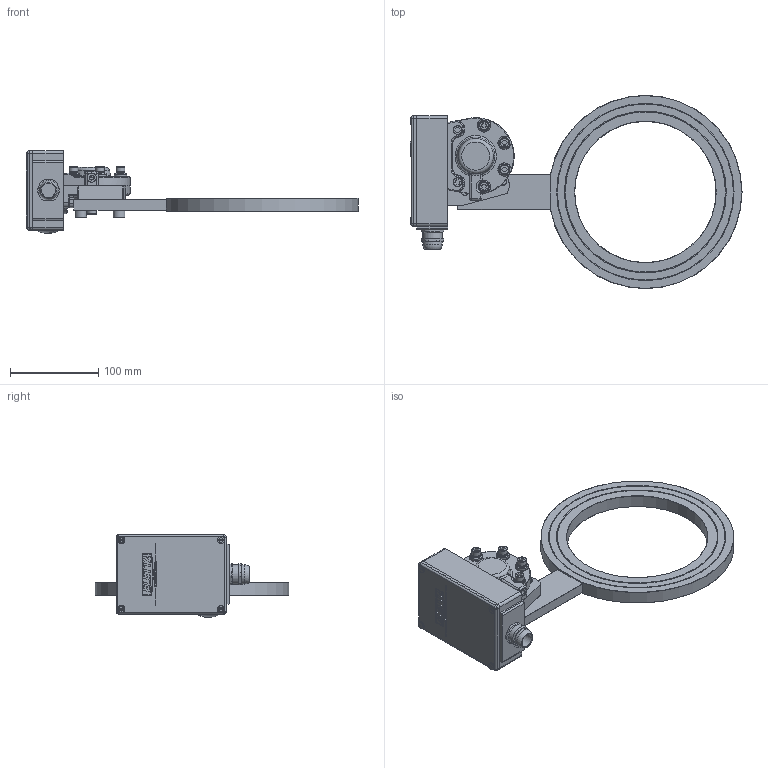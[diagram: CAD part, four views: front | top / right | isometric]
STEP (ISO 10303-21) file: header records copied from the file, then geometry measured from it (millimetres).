
FILE_DESCRIPTION(/* description */ ('Alibre Inc.'),/* implementation_level */ '2;1');
FILE_NAME(/* name */ 'export0',/* time_stamp */ '2012-10-19T13:19:12+02:00',/* author */ (''),/* organization */ (''),/* preprocessor_version */ 'ST-DEVELOPER v14',/* originating_system */ 'Alibre',/* authorisation */ '');
FILE_SCHEMA (('CONFIG_CONTROL_DESIGN'));
Length unit declared in the file: centimetre
Products named in the file (12): ID_1; ID_2; ID_3; ID_4; ID_5; ID_6; ID_7; ID_8; ID_9
Bounding box: 376.24 x 219 x 93.66 mm (x, y, z)
Volume: 578275 mm3; surface area: 208869.9 mm2
Topology: 21 solids, 21 shells, 1085 faces, 2568 edges, 1593 vertices
Faces by surface type: plane 538, cylinder 231, bspline 162, cone 76, torus 70, sphere 8
Full cylindrical faces by diameter (mm): 3.9 x2, 5 x22, 5.5 x1, 5.541 x2, 6 x14, 6.038 x2, 6.5 x6, 8 x9, 8.5 x2, 9.6 x6, 10 x11, 10.5 x1, 12 x3, 13 x2, 14 x3, 16 x1, 17.966 x1, 19.5 x1, 22 x2, 22.5 x4, 29 x1, 31 x1, 160 x1, 182 x2, 183 x2, 200 x2, 201 x2
Entity records: 34338 total; most frequent: CARTESIAN_POINT 14030, ORIENTED_EDGE 3988, DIRECTION 3168, EDGE_CURVE 1994, VERTEX_POINT 1333, AXIS2_PLACEMENT_3D 1279, EDGE_LOOP 1159, FACE_BOUND 1159
